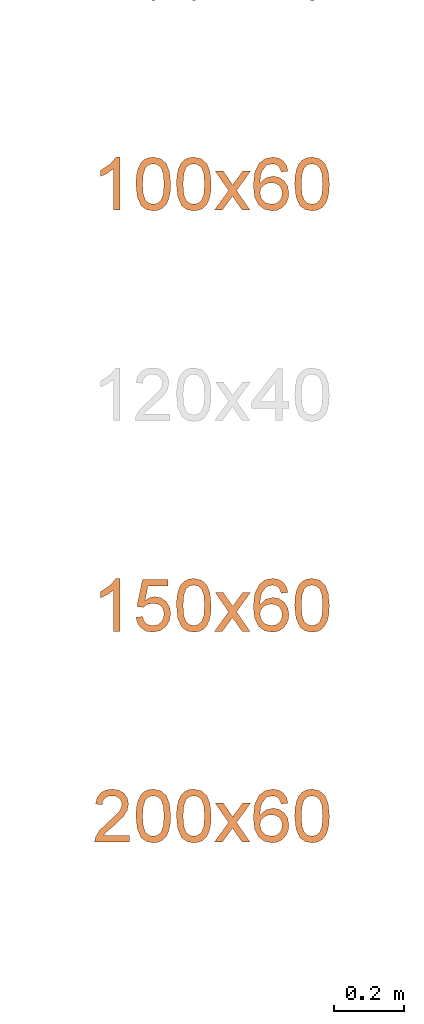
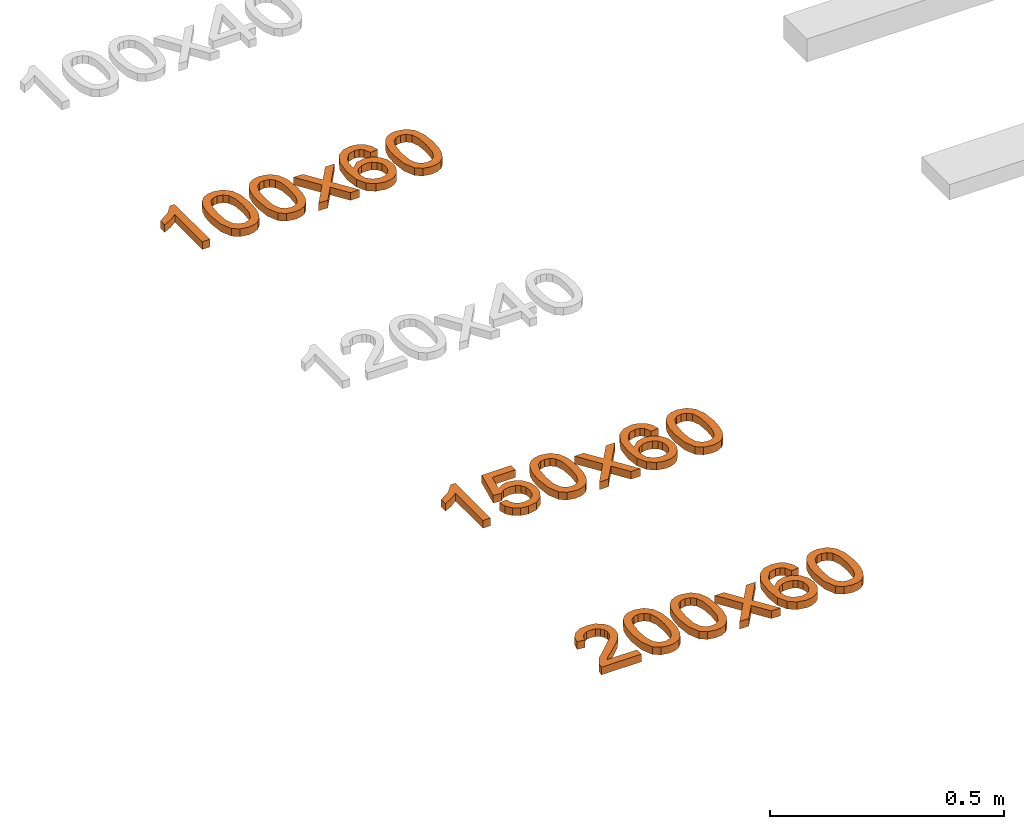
# One storey, part 38 of 71: 3 proxies.
"""IFC2X3 building model written with IfcOpenShell, lengths in millimetres."""

from ifc_helpers import new_model, entity, si_unit, converted_unit, derived_unit, direction, frame, origin, place, context, subcontext, project, spatial, polyline, outline, extrude, element, save


model = new_model("IFC2X3")

# Units and contexts
model_context = context("Model", 3, precision=0.01, world=origin(), true_north=direction((6.12303176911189e-17, 1.0)))
body_context = subcontext(model_context, "Body", "Model", "MODEL_VIEW")
ifc_project = project(units=[si_unit("LENGTHUNIT", "METRE", prefix="MILLI"), si_unit("AREAUNIT", "SQUARE_METRE"), si_unit("VOLUMEUNIT", "CUBIC_METRE"), converted_unit("PLANEANGLEUNIT", "DEGREE", entity("IfcRatioMeasure", 0.0174532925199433), si_unit("PLANEANGLEUNIT", "RADIAN"), dimensions=[0, 0, 0, 0, 0, 0, 0]), si_unit("MASSUNIT", "GRAM", prefix="KILO"), derived_unit("MASSDENSITYUNIT", [(si_unit("MASSUNIT", "GRAM", prefix="KILO"), 1), (si_unit("LENGTHUNIT", "METRE"), -3)]), si_unit("TIMEUNIT", "SECOND"), si_unit("FREQUENCYUNIT", "HERTZ"), si_unit("THERMODYNAMICTEMPERATUREUNIT", "DEGREE_CELSIUS"), derived_unit("THERMALTRANSMITTANCEUNIT", [(si_unit("MASSUNIT", "GRAM", prefix="KILO"), 1), (si_unit("THERMODYNAMICTEMPERATUREUNIT", "KELVIN"), -1), (si_unit("TIMEUNIT", "SECOND"), -3)]), derived_unit("VOLUMETRICFLOWRATEUNIT", [(si_unit("LENGTHUNIT", "METRE"), 3), (si_unit("TIMEUNIT", "SECOND"), -1)]), si_unit("ELECTRICCURRENTUNIT", "AMPERE"), si_unit("ELECTRICVOLTAGEUNIT", "VOLT"), si_unit("POWERUNIT", "WATT"), si_unit("FORCEUNIT", "NEWTON", prefix="KILO"), si_unit("ILLUMINANCEUNIT", "LUX"), si_unit("LUMINOUSFLUXUNIT", "LUMEN"), si_unit("LUMINOUSINTENSITYUNIT", "CANDELA"), derived_unit("USERDEFINED", [(si_unit("MASSUNIT", "GRAM", prefix="KILO"), -1), (si_unit("LENGTHUNIT", "METRE"), -2), (si_unit("TIMEUNIT", "SECOND"), 3), (si_unit("LUMINOUSFLUXUNIT", "LUMEN"), 1)]), derived_unit("LINEARVELOCITYUNIT", [(si_unit("LENGTHUNIT", "METRE"), 1), (si_unit("TIMEUNIT", "SECOND"), -1)]), si_unit("PRESSUREUNIT", "PASCAL"), derived_unit("USERDEFINED", [(si_unit("LENGTHUNIT", "METRE"), -2), (si_unit("MASSUNIT", "GRAM", prefix="KILO"), 1), (si_unit("TIMEUNIT", "SECOND"), -2)])], contexts=[model_context])

# Site, building, storey
site_placement = place(None, origin())
site = spatial("IfcSite", under=ifc_project, at=site_placement, Name="Default", CompositionType="ELEMENT")
building_placement = place(site_placement, origin())
building = spatial("IfcBuilding", under=site, at=building_placement, Name="Наименование здания", CompositionType="ELEMENT")
storey_placement = place(building_placement, origin())
storey = spatial("IfcBuildingStorey", under=building, at=storey_placement, Name="Этаж 01", CompositionType="ELEMENT", Elevation=0.0)

# Proxies
proxy_1_placement = place(storey_placement, origin())
element("IfcBuildingElementProxy", 1, at=proxy_1_placement, inside=storey, Name="Текст модели:150 мм Arial", ObjectType="Текст модели:150 мм Arial", context=body_context, shape_type="SweptSolid", body=[
    extrude(outline(polyline([(-95.8189532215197, -25.3777263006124), (54.8655120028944, -25.3777263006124), (54.8655120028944, -13.2376204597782), (34.8159432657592, 3.51940442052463), (17.194395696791, 31.1289481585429), (-0.611092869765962, 31.1289481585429), (8.89865670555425, 11.3001086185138), (21.6089796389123, -6.54216814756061), (-95.8189532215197, -6.54216814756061), (-95.8189532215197, -25.3777263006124)])), frame((-527.265042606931, -2224.79368181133, 0.0), z_axis=(0.0, 0.0, 1.0), x_axis=(0.0, 1.0, 0.0)), (0.0, 0.0, 1.0), 20.0),
    extrude(outline(polyline([(-5.36864641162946, -49.4475274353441), (31.4731891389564, -49.4475274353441), (57.9722440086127, -40.8445682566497), (70.1905944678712, -27.1554040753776), (75.7521595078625, -8.05118638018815), (75.2489213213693, 7.30564672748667), (70.3444850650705, 20.2193667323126), (60.9786621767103, 30.7793421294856), (47.091264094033, 39.0749414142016), (28.4201328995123, 45.1191376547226), (4.70311067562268, 48.9249039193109), (-30.8698575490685, 49.1278168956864), (-53.946834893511, 42.6152057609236), (-69.4194337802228, 28.9263997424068), (-76.4908890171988, 7.53605673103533), (-75.9929440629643, -7.73702828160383), (-71.1268691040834, -20.6190853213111), (-61.8036228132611, -31.1885692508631), (-47.9341638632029, -39.5239349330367), (-29.2215018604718, -45.6139863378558), (-5.36864641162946, -49.4475274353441)]), holes=[polyline([(-3.48681337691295, -30.7061745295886), (-32.3490284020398, -25.4583554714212), (-49.9139452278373, -16.7816147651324), (-56.4697700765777, -6.58792162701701), (-57.7757646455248, 5.39804548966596), (-53.6620197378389, 17.4947675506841), (-44.1234912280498, 26.4104625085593), (-26.2801372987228, 31.0181988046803), (2.74808386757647, 30.1910448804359), (31.951739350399, 24.982228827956), (48.3451643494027, 16.6473131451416), (55.5066665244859, 6.00331299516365), (57.0145535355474, -6.1327564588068), (53.087802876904, -17.7124062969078), (43.9453920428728, -26.6871475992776), (26.2122202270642, -31.5280478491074), (-3.48681337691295, -30.7061745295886)])]), frame((-407.415679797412, -2246.78883535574, 0.0), z_axis=(0.0, 0.0, 1.0), x_axis=(0.101851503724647, -0.994799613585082, 0.0)), (0.0, 0.0, 1.0), 20.0),
    extrude(outline(polyline([(-5.36864641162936, -49.447527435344), (31.4731891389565, -49.447527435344), (57.9722440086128, -40.8445682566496), (70.1905944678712, -27.1554040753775), (75.7521595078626, -8.05118638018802), (75.2489213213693, 7.3056467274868), (70.3444850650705, 20.2193667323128), (60.9786621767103, 30.7793421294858), (47.0912640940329, 39.0749414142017), (28.4201328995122, 45.1191376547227), (4.70311067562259, 48.9249039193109), (-30.8698575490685, 49.1278168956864), (-53.9468348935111, 42.6152057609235), (-69.4194337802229, 28.9263997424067), (-76.4908890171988, 7.53605673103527), (-75.9929440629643, -7.73702828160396), (-71.1268691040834, -20.6190853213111), (-61.803622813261, -31.1885692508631), (-47.9341638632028, -39.5239349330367), (-29.2215018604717, -45.6139863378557), (-5.36864641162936, -49.447527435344)]), holes=[polyline([(-3.48681337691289, -30.7061745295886), (-32.3490284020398, -25.4583554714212), (-49.9139452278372, -16.7816147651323), (-56.4697700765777, -6.58792162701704), (-57.7757646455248, 5.39804548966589), (-53.6620197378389, 17.494767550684), (-44.1234912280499, 26.4104625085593), (-26.2801372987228, 31.0181988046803), (2.74808386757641, 30.1910448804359), (31.9517393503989, 24.9822288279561), (48.3451643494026, 16.6473131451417), (55.5066665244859, 6.00331299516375), (57.0145535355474, -6.1327564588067), (53.087802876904, -17.7124062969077), (43.9453920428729, -26.6871475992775), (26.2122202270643, -31.5280478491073), (-3.48681337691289, -30.7061745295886)])]), frame((-292.04788610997, -2246.78883535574, 0.0), z_axis=(0.0, 0.0, 1.0), x_axis=(0.101851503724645, -0.994799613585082, 0.0)), (0.0, 0.0, 1.0), 20.0),
    extrude(outline(polyline([(-51.7953323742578, -57.6397510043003), (-29.1338014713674, -57.6397510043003), (-0.512582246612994, -18.0924365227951), (3.71806069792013, -24.1992776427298), (26.784261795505, -57.6397510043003), (49.4457926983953, -57.6397510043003), (11.1124888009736, -2.01599333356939), (50.9173206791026, 53.0191531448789), (28.2557897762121, 53.0191531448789), (7.43366884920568, 24.2507811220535), (0.0392407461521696, 14.0236616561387), (-8.49562154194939, 26.5316494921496), (-26.779356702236, 53.0191531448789), (-49.4408876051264, 53.0191531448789), (-11.5490421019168, -2.01599333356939), (-51.7953323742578, -57.6397510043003)])), frame((-181.685280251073, -2262.97288402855, 0.0)), (0.0, 0.0, 1.0), 20.0),
    extrude(outline(polyline([(15.7651813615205, -48.1860315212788), (33.1249071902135, -48.1860315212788), (47.8048310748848, -42.6335730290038), (59.0229904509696, -32.0086730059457), (65.9974227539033, -16.7913484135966), (67.6956688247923, 5.42313881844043), (59.7847369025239, 25.1274854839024), (38.366011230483, 43.8886230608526), (3.31349801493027, 57.8763217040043), (-29.8328194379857, 63.2095238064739), (-54.3960837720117, 58.4629251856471), (-71.1715692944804, 45.4506503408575), (-80.9545503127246, 25.9868237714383), (-82.9064235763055, 12.9662485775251), (-81.3947830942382, 0.493900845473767), (-76.4834467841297, -10.9544464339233), (-68.2362325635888, -20.9030202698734), (-57.43187982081, -28.7352219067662), (-44.8491279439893, -33.834452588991), (-25.3638110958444, -35.8072168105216), (-7.89095494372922, -30.3701056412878), (5.71390440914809, -18.9845116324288), (13.5952308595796, -3.11182733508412), (14.358297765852, 18.0352208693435), (4.31104064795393, 38.0547274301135), (22.7539705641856, 31.4415369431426), (35.2322018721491, 23.9328881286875), (48.3021991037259, 6.96962517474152), (48.1600772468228, -10.6274852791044), (43.5144203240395, -20.0577002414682), (35.5694879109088, -26.7223178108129), (18.5256041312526, -29.4056766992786), (15.7651813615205, -48.1860315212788)]), holes=[polyline([(-22.5619572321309, 45.500571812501), (-11.8731662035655, 40.1101370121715), (-4.83626080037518, 30.873880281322), (-1.82438885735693, 19.269463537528), (-3.21069820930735, 6.77454869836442), (-8.64892762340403, -5.36116347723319), (-17.0855588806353, -13.3353919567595), (-27.8876946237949, -16.8272321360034), (-40.4224374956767, -15.5157794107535), (-52.3381234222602, -10.0239911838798), (-60.2195132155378, -1.2695152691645), (-63.6992427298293, 9.83465865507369), (-62.4099478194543, 22.3755409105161), (-53.9591253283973, 37.6514284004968), (-39.4491697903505, 45.6559566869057), (-22.5619572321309, 45.500571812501)])]), frame((-66.1619893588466, -2238.01292413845, 0.0), z_axis=(0.0, 0.0, 1.0), x_axis=(-0.267015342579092, 0.963692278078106, 0.0)), (0.0, 0.0, 1.0), 20.0),
    extrude(outline(polyline([(-5.36864641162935, -49.447527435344), (31.4731891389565, -49.447527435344), (57.9722440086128, -40.8445682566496), (70.1905944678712, -27.1554040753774), (75.7521595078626, -8.05118638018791), (75.2489213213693, 7.30564672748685), (70.3444850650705, 20.2193667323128), (60.9786621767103, 30.7793421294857), (47.0912640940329, 39.0749414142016), (28.4201328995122, 45.1191376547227), (4.70311067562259, 48.9249039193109), (-30.8698575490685, 49.1278168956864), (-53.9468348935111, 42.6152057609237), (-69.4194337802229, 28.9263997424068), (-76.4908890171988, 7.53605673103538), (-75.9929440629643, -7.73702828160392), (-71.1268691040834, -20.6190853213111), (-61.803622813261, -31.1885692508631), (-47.9341638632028, -39.5239349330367), (-29.2215018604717, -45.6139863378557), (-5.36864641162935, -49.447527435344)]), holes=[polyline([(-3.48681337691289, -30.7061745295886), (-32.3490284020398, -25.4583554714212), (-49.9139452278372, -16.7816147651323), (-56.4697700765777, -6.587921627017), (-57.7757646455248, 5.3980454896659), (-53.6620197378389, 17.4947675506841), (-44.1234912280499, 26.4104625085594), (-26.2801372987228, 31.0181988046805), (2.74808386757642, 30.191044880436), (31.9517393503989, 24.9822288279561), (48.3451643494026, 16.6473131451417), (55.5066665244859, 6.0033129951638), (57.0145535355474, -6.13275645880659), (53.087802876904, -17.7124062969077), (43.9453920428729, -26.6871475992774), (26.2122202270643, -31.5280478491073), (-3.48681337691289, -30.7061745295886)])]), frame((44.6377158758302, -2246.78883535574, 0.0), z_axis=(0.0, 0.0, 1.0), x_axis=(0.101851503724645, -0.994799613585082, 0.0)), (0.0, 0.0, 1.0), 20.0),
])
proxy_2_placement = place(storey_placement, origin())
element("IfcBuildingElementProxy", 2, at=proxy_2_placement, inside=storey, Name="Текст модели:150 мм Arial", ObjectType="Текст модели:150 мм Arial", context=body_context, shape_type="SweptSolid", body=[
    extrude(outline(polyline([(-95.8189532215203, -25.3777263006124), (54.8655120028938, -25.3777263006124), (54.8655120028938, -13.2376204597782), (34.8159432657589, 3.51940442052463), (17.1943956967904, 31.1289481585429), (-0.611092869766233, 31.1289481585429), (8.89865670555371, 11.3001086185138), (21.6089796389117, -6.54216814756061), (-95.8189532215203, -6.54216814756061), (-95.8189532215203, -25.3777263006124)])), frame((-527.265042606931, -3424.79368181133, 0.0), z_axis=(0.0, 0.0, 1.0), x_axis=(0.0, 1.0, 0.0)), (0.0, 0.0, 1.0), 20.0),
    extrude(outline(polyline([(3.98174183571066, -54.8187738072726), (21.858740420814, -54.8187738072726), (37.4983690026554, -48.5233846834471), (49.6984025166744, -36.5170107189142), (57.2566158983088, -19.3840561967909), (58.5930416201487, 3.21470661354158), (49.8588442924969, 23.0858362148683), (36.5626810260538, 35.7858538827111), (19.1183060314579, 43.4792165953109), (-0.371685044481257, 45.2689959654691), (-17.813740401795, 39.728861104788), (-31.3539127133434, 28.212067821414), (-39.1382546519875, 12.0718719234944), (-40.1304466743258, -2.25330184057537), (-35.6953877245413, -17.3554369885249), (-73.7285911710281, 1.09430263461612), (-58.8864139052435, 56.9121805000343), (-77.0894415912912, 61.7524319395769), (-95.8454159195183, -8.78430034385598), (-24.9931467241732, -44.6779867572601), (-17.8775168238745, -27.0799905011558), (-23.3722963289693, -14.674778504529), (-22.2870940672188, 2.14757173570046), (-16.7209239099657, 15.0994835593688), (-8.22815220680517, 23.0953986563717), (2.66085803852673, 26.3239256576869), (15.4157438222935, 24.9736731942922), (27.8824007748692, 19.4794342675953), (36.4135074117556, 10.673053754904), (40.3599201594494, -0.844610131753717), (39.0724954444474, -14.4726991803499), (34.6510999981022, -24.7836122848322), (27.7397436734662, -31.8248777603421), (18.3632930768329, -35.574557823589), (6.54661481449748, -36.0107146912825), (3.98174183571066, -54.8187738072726)])), frame((-405.19820537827, -3462.65203837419, 0.0), z_axis=(0.0, 0.0, 1.0), x_axis=(0.256974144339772, -0.966418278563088, 0.0)), (0.0, 0.0, 1.0), 20.0),
    extrude(outline(polyline([(-5.36864641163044, -49.4475274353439), (31.4731891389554, -49.4475274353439), (57.9722440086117, -40.8445682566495), (70.1905944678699, -27.1554040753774), (75.7521595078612, -8.05118638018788), (75.2489213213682, 7.30564672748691), (70.3444850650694, 20.2193667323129), (60.9786621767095, 30.7793421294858), (47.0912640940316, 39.0749414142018), (28.4201328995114, 45.1191376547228), (4.70311067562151, 48.924903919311), (-30.8698575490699, 49.1278168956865), (-53.9468348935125, 42.6152057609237), (-69.4194337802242, 28.9263997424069), (-76.4908890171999, 7.53605673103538), (-75.9929440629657, -7.73702828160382), (-71.1268691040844, -20.619085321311), (-61.8036228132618, -31.188569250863), (-47.9341638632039, -39.5239349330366), (-29.2215018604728, -45.6139863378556), (-5.36864641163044, -49.4475274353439)]), holes=[polyline([(-3.48681337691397, -30.7061745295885), (-32.3490284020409, -25.4583554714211), (-49.9139452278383, -16.7816147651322), (-56.4697700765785, -6.58792162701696), (-57.7757646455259, 5.398045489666), (-53.6620197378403, 17.4947675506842), (-44.1234912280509, 26.4104625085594), (-26.2801372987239, 31.0181988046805), (2.74808386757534, 30.191044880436), (31.9517393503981, 24.9822288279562), (48.3451643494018, 16.6473131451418), (55.5066665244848, 6.00331299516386), (57.014553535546, -6.13275645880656), (53.0878028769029, -17.7124062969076), (43.9453920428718, -26.6871475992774), (26.2122202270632, -31.5280478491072), (-3.48681337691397, -30.7061745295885)])]), frame((-292.04788610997, -3446.78883535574, 0.0), z_axis=(0.0, 0.0, 1.0), x_axis=(0.101851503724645, -0.994799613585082, 0.0)), (0.0, 0.0, 1.0), 20.0),
    extrude(outline(polyline([(-51.7953323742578, -57.6397510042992), (-29.1338014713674, -57.6397510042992), (-0.512582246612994, -18.092436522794), (3.71806069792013, -24.199277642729), (26.784261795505, -57.6397510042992), (49.4457926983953, -57.6397510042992), (11.1124888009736, -2.0159933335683), (50.9173206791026, 53.0191531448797), (28.2557897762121, 53.0191531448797), (7.43366884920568, 24.2507811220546), (0.0392407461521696, 14.0236616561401), (-8.49562154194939, 26.5316494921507), (-26.779356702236, 53.0191531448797), (-49.4408876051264, 53.0191531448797), (-11.5490421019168, -2.0159933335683), (-51.7953323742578, -57.6397510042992)])), frame((-181.685280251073, -3462.97288402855, 0.0)), (0.0, 0.0, 1.0), 20.0),
    extrude(outline(polyline([(15.7651813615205, -48.1860315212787), (33.1249071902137, -48.1860315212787), (47.804831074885, -42.6335730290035), (59.02299045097, -32.0086730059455), (65.9974227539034, -16.7913484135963), (67.6956688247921, 5.42313881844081), (59.7847369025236, 25.1274854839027), (38.3660112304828, 43.8886230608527), (3.31349801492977, 57.8763217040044), (-29.8328194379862, 63.2095238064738), (-54.3960837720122, 58.4629251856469), (-71.1715692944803, 45.450650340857), (-80.9545503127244, 25.9868237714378), (-82.9064235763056, 12.9662485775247), (-81.3947830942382, 0.493900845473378), (-76.4834467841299, -10.9544464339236), (-68.2362325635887, -20.9030202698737), (-57.4318798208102, -28.7352219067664), (-44.8491279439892, -33.8344525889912), (-25.3638110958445, -35.8072168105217), (-7.89095494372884, -30.3701056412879), (5.71390440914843, -18.9845116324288), (13.5952308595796, -3.11182733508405), (14.3582977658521, 18.0352208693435), (4.31104064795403, 38.0547274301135), (22.7539705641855, 31.4415369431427), (35.232201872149, 23.9328881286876), (48.3021991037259, 6.96962517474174), (48.1600772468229, -10.6274852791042), (43.5144203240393, -20.0577002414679), (35.5694879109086, -26.7223178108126), (18.5256041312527, -29.4056766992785), (15.7651813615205, -48.1860315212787)]), holes=[polyline([(-22.5619572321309, 45.5005718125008), (-11.8731662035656, 40.1101370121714), (-4.83626080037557, 30.8738802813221), (-1.82438885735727, 19.269463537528), (-3.21069820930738, 6.77454869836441), (-8.64892762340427, -5.36116347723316), (-17.0855588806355, -13.3353919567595), (-27.8876946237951, -16.8272321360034), (-40.4224374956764, -15.5157794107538), (-52.3381234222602, -10.0239911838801), (-60.2195132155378, -1.26951526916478), (-63.6992427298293, 9.83465865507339), (-62.4099478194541, 22.3755409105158), (-53.9591253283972, 37.6514284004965), (-39.4491697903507, 45.6559566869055), (-22.5619572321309, 45.5005718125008)])]), frame((-66.1619893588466, -3438.01292413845, 0.0), z_axis=(0.0, 0.0, 1.0), x_axis=(-0.267015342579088, 0.963692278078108, 0.0)), (0.0, 0.0, 1.0), 20.0),
    extrude(outline(polyline([(-5.36864641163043, -49.4475274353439), (31.4731891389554, -49.4475274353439), (57.9722440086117, -40.8445682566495), (70.1905944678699, -27.1554040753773), (75.7521595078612, -8.05118638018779), (75.2489213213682, 7.30564672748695), (70.3444850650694, 20.2193667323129), (60.9786621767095, 30.7793421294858), (47.0912640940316, 39.0749414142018), (28.4201328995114, 45.1191376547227), (4.70311067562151, 48.924903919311), (-30.8698575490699, 49.1278168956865), (-53.9468348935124, 42.6152057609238), (-69.4194337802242, 28.926399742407), (-76.4908890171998, 7.53605673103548), (-75.9929440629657, -7.7370282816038), (-71.1268691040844, -20.619085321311), (-61.8036228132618, -31.188569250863), (-47.9341638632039, -39.5239349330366), (-29.2215018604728, -45.6139863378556), (-5.36864641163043, -49.4475274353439)]), holes=[polyline([(-3.48681337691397, -30.7061745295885), (-32.3490284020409, -25.4583554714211), (-49.9139452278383, -16.7816147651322), (-56.4697700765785, -6.58792162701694), (-57.7757646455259, 5.398045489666), (-53.6620197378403, 17.4947675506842), (-44.1234912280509, 26.4104625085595), (-26.2801372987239, 31.0181988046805), (2.74808386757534, 30.1910448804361), (31.9517393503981, 24.9822288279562), (48.3451643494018, 16.6473131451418), (55.5066665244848, 6.00331299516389), (57.0145535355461, -6.13275645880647), (53.0878028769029, -17.7124062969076), (43.9453920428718, -26.6871475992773), (26.2122202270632, -31.5280478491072), (-3.48681337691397, -30.7061745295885)])]), frame((44.6377158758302, -3446.78883535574, 0.0), z_axis=(0.0, 0.0, 1.0), x_axis=(0.101851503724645, -0.994799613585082, 0.0)), (0.0, 0.0, 1.0), 20.0),
])
proxy_3_placement = place(storey_placement, origin())
element("IfcBuildingElementProxy", 3, at=proxy_3_placement, inside=storey, Name="Текст модели:150 мм Arial", ObjectType="Текст модели:150 мм Arial", context=body_context, shape_type="SweptSolid", body=[
    extrude(outline(polyline([(-47.8510638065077, -72.8483486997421), (-47.8510638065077, -91.6839068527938), (51.0356164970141, -91.6839068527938), (49.0122655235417, -78.6976724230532), (37.5711354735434, -58.7032859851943), (13.9898995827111, -36.8694895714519), (-18.5308687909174, -5.48915538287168), (-24.6285128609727, 5.32657527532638), (-26.6610608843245, 15.8480003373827), (-24.7434759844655, 25.2795749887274), (-18.9907212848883, 33.1200600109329), (-10.1477578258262, 38.4037651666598), (1.04045335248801, 40.1650002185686), (12.7896845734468, 38.4451518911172), (21.917756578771, 33.2856069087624), (27.8084670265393, 25.0910354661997), (29.8456135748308, 14.2661077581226), (48.6811717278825, 16.6205525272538), (44.1148364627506, 34.8399083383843), (34.2418034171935, 48.1480395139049), (19.5771073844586, 56.2874286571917), (0.635783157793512, 59.0005583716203), (-18.4434968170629, 55.9839260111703), (-33.0806017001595, 46.9340289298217), (-42.3926147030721, 33.4143656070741), (-45.4966190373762, 16.9884345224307), (-42.1488928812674, -0.87223634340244), (-31.0204625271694, -19.3399125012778), (-4.03631818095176, -45.1468344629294), (17.6319313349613, -63.2650227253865), (26.1300054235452, -72.8483486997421), (-47.8510638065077, -72.8483486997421)])), frame((-523.83948765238, -4028.92872818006, 0.0), z_axis=(0.0, 0.0, -1.0), x_axis=(-1.0, 0.0, 0.0)), (0.0, 0.0, -1.0), 20.0),
    extrude(outline(polyline([(-5.36864641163, -49.4475274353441), (31.4731891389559, -49.447527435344), (57.9722440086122, -40.8445682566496), (70.1905944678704, -27.1554040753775), (75.7521595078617, -8.05118638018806), (75.2489213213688, 7.30564672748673), (70.34448506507, 20.2193667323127), (60.9786621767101, 30.7793421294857), (47.0912640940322, 39.0749414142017), (28.420132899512, 45.1191376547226), (4.70311067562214, 48.924903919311), (-30.8698575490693, 49.1278168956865), (-53.9468348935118, 42.6152057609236), (-69.4194337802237, 28.9263997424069), (-76.4908890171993, 7.53605673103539), (-75.9929440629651, -7.73702828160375), (-71.126869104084, -20.619085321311), (-61.8036228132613, -31.1885692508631), (-47.9341638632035, -39.5239349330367), (-29.2215018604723, -45.6139863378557), (-5.36864641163, -49.4475274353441)]), holes=[polyline([(-3.48681337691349, -30.7061745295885), (-32.3490284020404, -25.4583554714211), (-49.9139452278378, -16.7816147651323), (-56.469770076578, -6.58792162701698), (-57.7757646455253, 5.39804548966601), (-53.6620197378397, 17.4947675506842), (-44.1234912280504, 26.4104625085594), (-26.2801372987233, 31.0181988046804), (2.74808386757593, 30.1910448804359), (31.9517393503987, 24.9822288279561), (48.3451643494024, 16.6473131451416), (55.5066665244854, 6.0033129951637), (57.0145535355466, -6.13275645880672), (53.0878028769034, -17.7124062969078), (43.9453920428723, -26.6871475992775), (26.2122202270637, -31.5280478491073), (-3.48681337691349, -30.7061745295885)])]), frame((-407.415679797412, -4046.78883535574, 0.0), z_axis=(0.0, 0.0, 1.0), x_axis=(0.101851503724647, -0.994799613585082, 0.0)), (0.0, 0.0, 1.0), 20.0),
    extrude(outline(polyline([(-5.3686464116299, -49.447527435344), (31.473189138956, -49.447527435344), (57.9722440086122, -40.8445682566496), (70.1905944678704, -27.1554040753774), (75.7521595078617, -8.05118638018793), (75.2489213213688, 7.30564672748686), (70.3444850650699, 20.2193667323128), (60.97866217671, 30.7793421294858), (47.0912640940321, 39.0749414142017), (28.4201328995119, 45.1191376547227), (4.70311067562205, 48.924903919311), (-30.8698575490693, 49.1278168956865), (-53.9468348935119, 42.6152057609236), (-69.4194337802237, 28.9263997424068), (-76.4908890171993, 7.53605673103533), (-75.9929440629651, -7.73702828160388), (-71.1268691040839, -20.6190853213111), (-61.8036228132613, -31.1885692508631), (-47.9341638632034, -39.5239349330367), (-29.2215018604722, -45.6139863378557), (-5.3686464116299, -49.447527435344)]), holes=[polyline([(-3.48681337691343, -30.7061745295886), (-32.3490284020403, -25.4583554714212), (-49.9139452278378, -16.7816147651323), (-56.469770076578, -6.58792162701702), (-57.7757646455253, 5.39804548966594), (-53.6620197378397, 17.4947675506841), (-44.1234912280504, 26.4104625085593), (-26.2801372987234, 31.0181988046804), (2.74808386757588, 30.191044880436), (31.9517393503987, 24.9822288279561), (48.3451643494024, 16.6473131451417), (55.5066665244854, 6.00331299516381), (57.0145535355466, -6.13275645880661), (53.0878028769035, -17.7124062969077), (43.9453920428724, -26.6871475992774), (26.2122202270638, -31.5280478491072), (-3.48681337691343, -30.7061745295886)])]), frame((-292.04788610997, -4046.78883535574, 0.0), z_axis=(0.0, 0.0, 1.0), x_axis=(0.101851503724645, -0.994799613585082, 0.0)), (0.0, 0.0, 1.0), 20.0),
    extrude(outline(polyline([(-51.7953323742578, -57.6397510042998), (-29.1338014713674, -57.6397510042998), (-0.512582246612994, -18.0924365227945), (3.71806069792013, -24.1992776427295), (26.784261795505, -57.6397510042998), (49.4457926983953, -57.6397510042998), (11.1124888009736, -2.01599333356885), (50.9173206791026, 53.0191531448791), (28.2557897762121, 53.0191531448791), (7.43366884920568, 24.2507811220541), (0.0392407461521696, 14.0236616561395), (-8.49562154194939, 26.5316494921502), (-26.779356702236, 53.0191531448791), (-49.4408876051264, 53.0191531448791), (-11.5490421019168, -2.01599333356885), (-51.7953323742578, -57.6397510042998)])), frame((-181.685280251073, -4062.97288402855, 0.0)), (0.0, 0.0, 1.0), 20.0),
    extrude(outline(polyline([(15.7651813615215, -48.1860315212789), (33.1249071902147, -48.1860315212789), (47.804831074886, -42.6335730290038), (59.0229904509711, -32.0086730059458), (65.9974227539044, -16.7913484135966), (67.6956688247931, 5.42313881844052), (59.7847369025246, 25.1274854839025), (38.3660112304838, 43.8886230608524), (3.31349801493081, 57.8763217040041), (-29.8328194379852, 63.2095238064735), (-54.3960837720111, 58.4629251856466), (-71.1715692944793, 45.4506503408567), (-80.9545503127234, 25.9868237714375), (-82.9064235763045, 12.9662485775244), (-81.3947830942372, 0.49390084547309), (-76.4834467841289, -10.9544464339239), (-68.2362325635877, -20.903020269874), (-57.4318798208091, -28.7352219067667), (-44.8491279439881, -33.8344525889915), (-25.3638110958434, -35.807216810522), (-7.89095494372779, -30.3701056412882), (5.71390440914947, -18.9845116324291), (13.5952308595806, -3.11182733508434), (14.3582977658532, 18.0352208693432), (4.31104064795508, 38.0547274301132), (22.7539705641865, 31.4415369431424), (35.23220187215, 23.9328881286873), (48.3021991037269, 6.96962517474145), (48.1600772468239, -10.6274852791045), (43.5144203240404, -20.0577002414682), (35.5694879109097, -26.7223178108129), (18.5256041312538, -29.4056766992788), (15.7651813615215, -48.1860315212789)]), holes=[polyline([(-22.5619572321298, 45.5005718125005), (-11.8731662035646, 40.1101370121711), (-4.83626080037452, 30.8738802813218), (-1.82438885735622, 19.2694635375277), (-3.21069820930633, 6.77454869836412), (-8.64892762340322, -5.36116347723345), (-17.0855588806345, -13.3353919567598), (-27.887694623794, -16.8272321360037), (-40.4224374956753, -15.5157794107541), (-52.3381234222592, -10.0239911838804), (-60.2195132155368, -1.26951526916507), (-63.6992427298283, 9.8346586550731), (-62.4099478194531, 22.3755409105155), (-53.9591253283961, 37.6514284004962), (-39.4491697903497, 45.6559566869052), (-22.5619572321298, 45.5005718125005)])]), frame((-66.1619893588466, -4038.01292413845, 0.0), z_axis=(0.0, 0.0, 1.0), x_axis=(-0.267015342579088, 0.963692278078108, 0.0)), (0.0, 0.0, 1.0), 20.0),
    extrude(outline(polyline([(-5.3686464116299, -49.4475274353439), (31.473189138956, -49.447527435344), (57.9722440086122, -40.8445682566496), (70.1905944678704, -27.1554040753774), (75.7521595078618, -8.05118638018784), (75.2489213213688, 7.30564672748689), (70.3444850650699, 20.2193667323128), (60.97866217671, 30.7793421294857), (47.0912640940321, 39.0749414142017), (28.4201328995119, 45.1191376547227), (4.70311067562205, 48.924903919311), (-30.8698575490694, 49.1278168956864), (-53.9468348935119, 42.6152057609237), (-69.4194337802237, 28.9263997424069), (-76.4908890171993, 7.53605673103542), (-75.9929440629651, -7.73702828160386), (-71.1268691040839, -20.619085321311), (-61.8036228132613, -31.1885692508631), (-47.9341638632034, -39.5239349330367), (-29.2215018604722, -45.6139863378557), (-5.3686464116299, -49.4475274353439)]), holes=[polyline([(-3.48681337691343, -30.7061745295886), (-32.3490284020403, -25.4583554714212), (-49.9139452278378, -16.7816147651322), (-56.469770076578, -6.58792162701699), (-57.7757646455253, 5.39804548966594), (-53.6620197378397, 17.4947675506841), (-44.1234912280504, 26.4104625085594), (-26.2801372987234, 31.0181988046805), (2.74808386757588, 30.191044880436), (31.9517393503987, 24.9822288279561), (48.3451643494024, 16.6473131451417), (55.5066665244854, 6.00331299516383), (57.0145535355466, -6.13275645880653), (53.0878028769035, -17.7124062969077), (43.9453920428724, -26.6871475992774), (26.2122202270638, -31.5280478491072), (-3.48681337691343, -30.7061745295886)])]), frame((44.6377158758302, -4046.78883535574, 0.0), z_axis=(0.0, 0.0, 1.0), x_axis=(0.101851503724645, -0.994799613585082, 0.0)), (0.0, 0.0, 1.0), 20.0),
])

save(model, "model.ifc")
